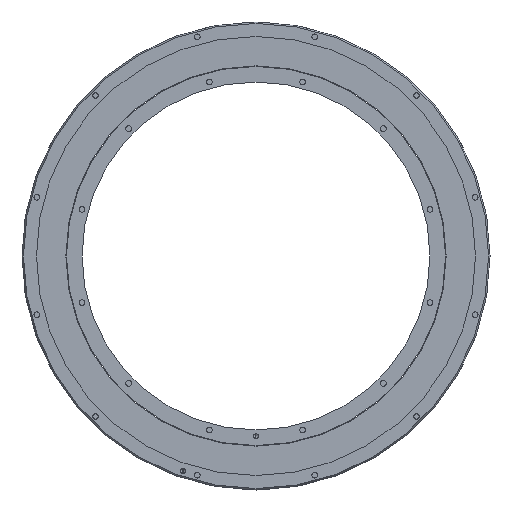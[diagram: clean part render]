
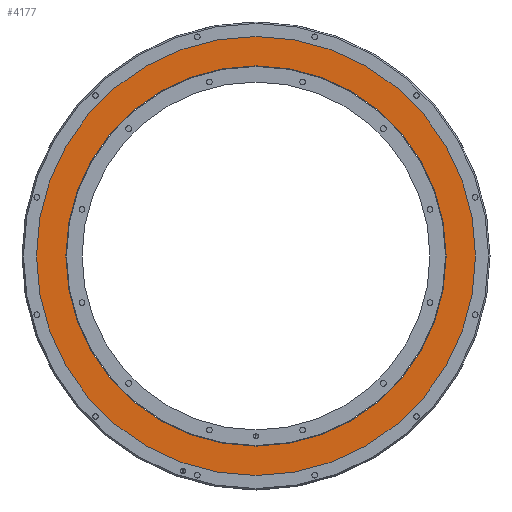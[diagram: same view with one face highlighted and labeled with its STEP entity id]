
A CAD part, front view. The second image highlights one B-rep face of the part: STEP entity #4177.
In plain terms, the highlighted planar face has unit normal (0, -1, 0).
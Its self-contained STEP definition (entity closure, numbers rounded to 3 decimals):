
#50 = CIRCLE ( 'NONE', #5820, 229.5 ) ;
#258 = AXIS2_PLACEMENT_3D ( 'NONE', #6715, #1406, #5690 ) ;
#272 = DIRECTION ( 'NONE',  ( 0., -1., 0. ) ) ;
#507 = CARTESIAN_POINT ( 'NONE',  ( 0., 1., -229.5 ) ) ;
#556 = FACE_OUTER_BOUND ( 'NONE', #1567, .T. ) ;
#609 = EDGE_CURVE ( 'NONE', #1804, #6059, #5548, .T. ) ;
#925 = CIRCLE ( 'NONE', #2090, 229.5 ) ;
#931 = EDGE_CURVE ( 'NONE', #2298, #3289, #925, .T. ) ;
#1021 = DIRECTION ( 'NONE',  ( 0., -1., 0. ) ) ;
#1056 = CARTESIAN_POINT ( 'NONE',  ( 0., 1., 265. ) ) ;
#1243 = DIRECTION ( 'NONE',  ( 0., 0., -1. ) ) ;
#1267 = DIRECTION ( 'NONE',  ( 0., -1., 0. ) ) ;
#1406 = DIRECTION ( 'NONE',  ( 0., -1., 0. ) ) ;
#1567 = EDGE_LOOP ( 'NONE', ( #3321, #5095 ) ) ;
#1804 = VERTEX_POINT ( 'NONE', #2136 ) ;
#1882 = DIRECTION ( 'NONE',  ( 0., -1., 0. ) ) ;
#2090 = AXIS2_PLACEMENT_3D ( 'NONE', #4648, #272, #5165 ) ;
#2136 = CARTESIAN_POINT ( 'NONE',  ( 0., 1., -265. ) ) ;
#2298 = VERTEX_POINT ( 'NONE', #507 ) ;
#2374 = DIRECTION ( 'NONE',  ( 0., 0., -1. ) ) ;
#2407 = EDGE_LOOP ( 'NONE', ( #5057, #6519 ) ) ;
#2510 = PLANE ( 'NONE',  #258 ) ;
#2801 = AXIS2_PLACEMENT_3D ( 'NONE', #4279, #1021, #3172 ) ;
#2919 = CARTESIAN_POINT ( 'NONE',  ( 0., 1., 0. ) ) ;
#3172 = DIRECTION ( 'NONE',  ( 0., 0., -1. ) ) ;
#3289 = VERTEX_POINT ( 'NONE', #5213 ) ;
#3321 = ORIENTED_EDGE ( 'NONE', *, *, #609, .T. ) ;
#3461 = CARTESIAN_POINT ( 'NONE',  ( 0., 1., 0. ) ) ;
#4033 = EDGE_CURVE ( 'NONE', #3289, #2298, #50, .T. ) ;
#4177 = ADVANCED_FACE ( 'NONE', ( #556, #6662 ), #2510, .T. ) ;
#4279 = CARTESIAN_POINT ( 'NONE',  ( 0., 1., 0. ) ) ;
#4538 = CIRCLE ( 'NONE', #5881, 265. ) ;
#4648 = CARTESIAN_POINT ( 'NONE',  ( 0., 1., 0. ) ) ;
#5057 = ORIENTED_EDGE ( 'NONE', *, *, #931, .F. ) ;
#5095 = ORIENTED_EDGE ( 'NONE', *, *, #6310, .T. ) ;
#5165 = DIRECTION ( 'NONE',  ( 0., 0., -1. ) ) ;
#5213 = CARTESIAN_POINT ( 'NONE',  ( 0., 1., 229.5 ) ) ;
#5548 = CIRCLE ( 'NONE', #2801, 265. ) ;
#5690 = DIRECTION ( 'NONE',  ( 0., 0., -1. ) ) ;
#5820 = AXIS2_PLACEMENT_3D ( 'NONE', #2919, #1882, #2374 ) ;
#5881 = AXIS2_PLACEMENT_3D ( 'NONE', #3461, #1267, #1243 ) ;
#6059 = VERTEX_POINT ( 'NONE', #1056 ) ;
#6310 = EDGE_CURVE ( 'NONE', #6059, #1804, #4538, .T. ) ;
#6519 = ORIENTED_EDGE ( 'NONE', *, *, #4033, .F. ) ;
#6662 = FACE_BOUND ( 'NONE', #2407, .T. ) ;
#6715 = CARTESIAN_POINT ( 'NONE',  ( 229.5, 1., 0. ) ) ;
